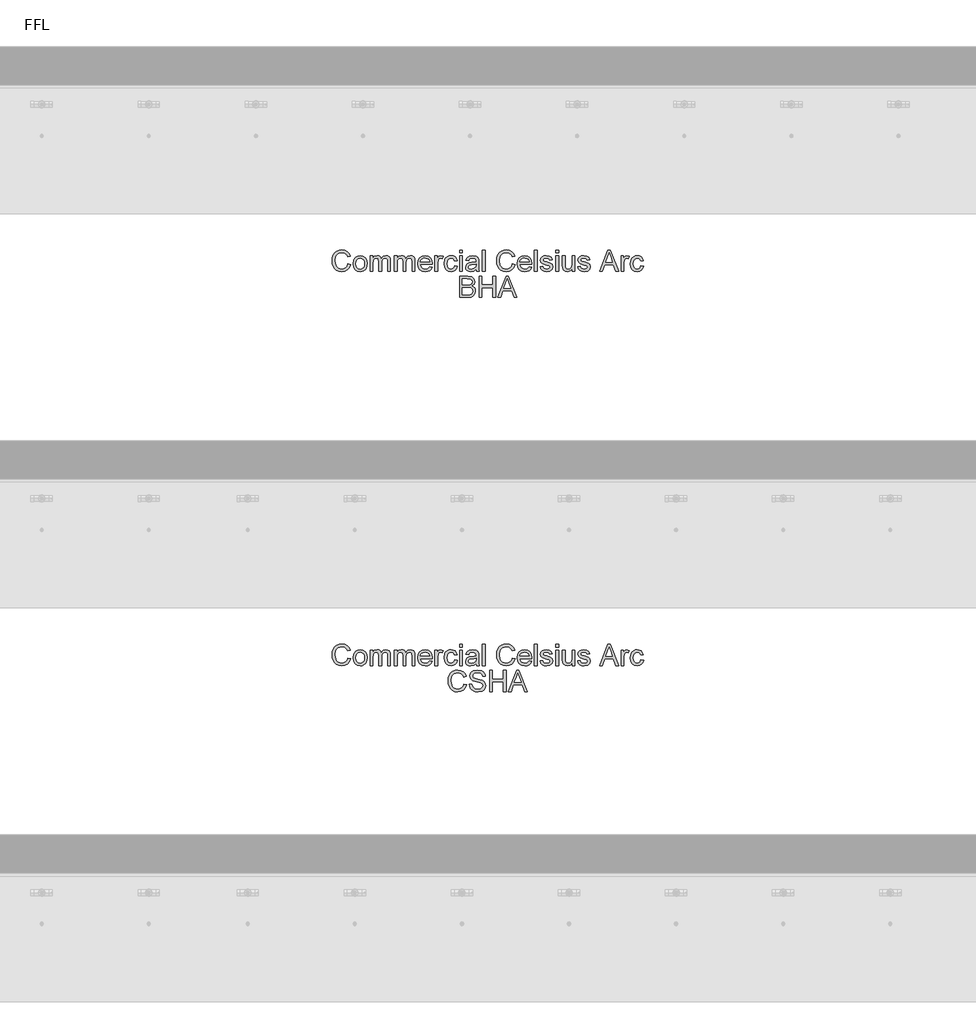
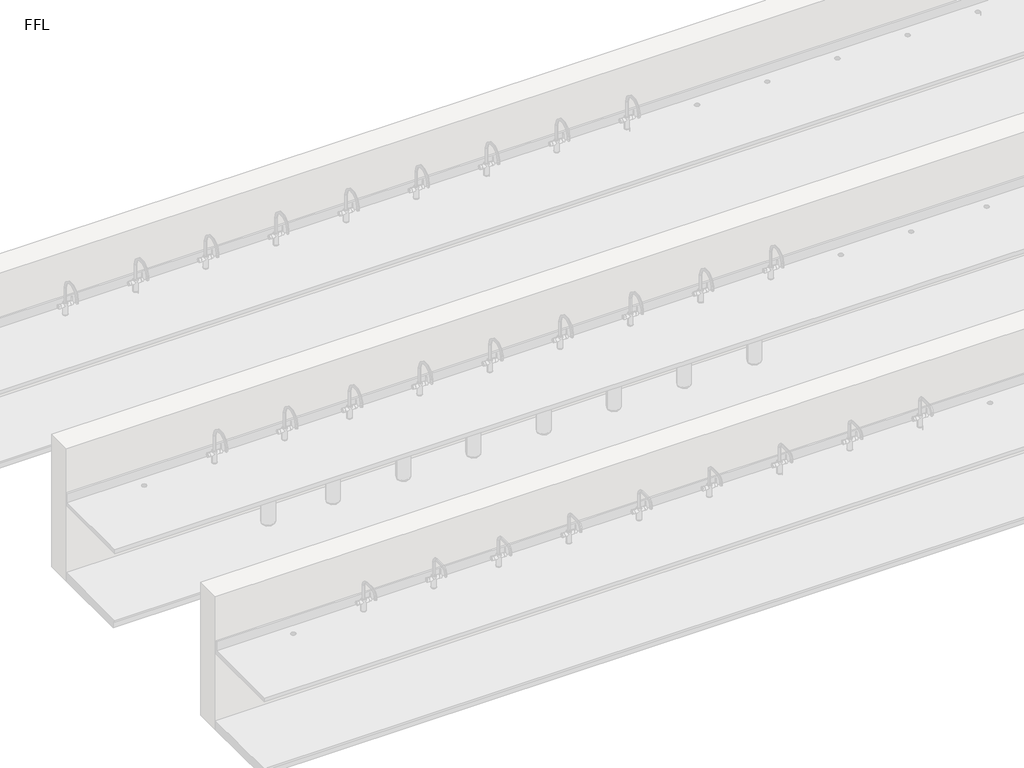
# One storey, part 7 of 10: 2 proxies.
"""IFC4 building model written with IfcOpenShell, lengths in millimetres."""

from ifc_helpers import new_model, si_unit, origin, origin_with_axes, place, context, project, spatial, polyline, outline, extrude, element, save

model = new_model("IFC4")

# Units and contexts
model_context = context("Model", 3, world=origin())
ifc_project = project(units=[si_unit("LENGTHUNIT", "METRE", prefix="MILLI")], contexts=[model_context])

# Site, building, storey
site = spatial("IfcSite", under=ifc_project)
building = spatial("IfcBuilding", under=site)
storey = spatial("IfcBuildingStorey", under=building, Name="FFL", Elevation=0.0)

# Proxies
placement = place(None, origin())
element("IfcBuildingElementProxy", 1, Name="150mm Arial", ObjectType="150mm Arial", at=placement, inside=storey, context=model_context, shape_type="SweptSolid", body=[
    extrude(outline(polyline([(-3320.889139, 3836.3018309), (-3302.4276006, 3831.5422155), (-3310.9462304, 3810.0292948), (-3324.3146198, 3794.3126482), (-3341.8747159, 3784.698766), (-3362.9684659, 3781.4941386), (-3384.382228, 3783.9190184), (-3401.3879371, 3791.1936578), (-3414.4227929, 3803.065653), (-3423.9239948, 3819.2826001), (-3429.724776, 3838.3481049), (-3431.6583698, 3858.7657732), (-3429.4723722, 3880.3012299), (-3422.9143794, 3898.8979847), (-3412.3269395, 3913.9655929), (-3398.0526006, 3924.9136097), (-3381.123514, 3931.5797756), (-3362.5718313, 3933.8018309), (-3342.3299443, 3930.9262299), (-3325.5946679, 3922.299427), (-3312.8888385, 3908.4532732), (-3304.7352929, 3889.9196193), (-3323.1968313, 3885.5205809), (-3329.5970717, 3898.9836217), (-3338.3410621, 3908.2188982), (-3349.5369756, 3913.5599439), (-3363.2929852, 3915.3402924), (-3379.1493554, 3913.3661338), (-3392.1751967, 3907.4436578), (-3402.0595116, 3898.1948597), (-3408.4913025, 3886.2417347), (-3413.1968313, 3858.8018309), (-3407.6259179, 3826.9989463), (-3400.5045236, 3815.1224439), (-3390.2821679, 3806.6804367), (-3378.0270597, 3801.6368669), (-3364.8074083, 3799.955677), (-3349.397252, 3802.2453405), (-3336.5562063, 3809.1143309), (-3326.8611943, 3820.4905328), (-3320.889139, 3836.3018309)])), origin_with_axes(), (0.0, 0.0, 1.0), 5.0),
    extrude(outline(polyline([(-3283.9660621, 3838.0326001), (-3279.9726727, 3864.1834415), (-3267.9925044, 3882.5638501), (-3253.1908217, 3891.5692588), (-3235.4684659, 3894.5710617), (-3216.0739347, 3890.9157131), (-3200.5826486, 3879.9496674), (-3190.427901, 3862.5383092), (-3187.0429852, 3839.5470232), (-3188.5393794, 3820.8961818), (-3193.0285621, 3806.6984655), (-3200.3798241, 3796.0659535), (-3210.4624563, 3788.1107251), (-3222.4381174, 3783.1482852), (-3235.4684659, 3781.4941386), (-3255.0973722, 3785.1359655), (-3270.5706294, 3796.0614463), (-3280.6172039, 3813.8378886), (-3283.9660621, 3838.0326001)]), holes=[polyline([(-3265.5045236, 3838.0686578), (-3263.3681054, 3821.3604246), (-3256.9588506, 3809.456879), (-3247.3134179, 3802.3309775), (-3235.4684659, 3799.955677), (-3223.6776006, 3802.3444992), (-3214.0501967, 3809.5109655), (-3207.6409419, 3821.5722636), (-3205.5045236, 3838.6455809), (-3207.6544635, 3854.8670352), (-3214.1042833, 3866.6083213), (-3223.7452087, 3873.7342227), (-3235.4684659, 3876.1095232), (-3247.3134179, 3873.7432371), (-3256.9588506, 3866.644379), (-3263.3681054, 3854.7678766), (-3265.5045236, 3838.0686578)])]), origin_with_axes(), (0.0, 0.0, 1.0), 5.0),
    extrude(outline(polyline([(-3166.2737544, 3783.8018309), (-3166.2737544, 3892.2633693), (-3147.8122159, 3892.2633693), (-3147.8122159, 3874.4148117), (-3135.1199083, 3889.0362059), (-3117.0550044, 3894.5710617), (-3106.7875765, 3893.1603044), (-3098.5574083, 3888.9280328), (-3088.389139, 3873.1167347), (-3073.9840909, 3889.2074799), (-3055.7929852, 3894.5710617), (-3041.9152809, 3892.3399919), (-3031.6523602, 3885.6467828), (-3025.3107135, 3874.3111458), (-3023.1968313, 3858.1527924), (-3023.1968313, 3783.8018309), (-3041.6583698, 3783.8018309), (-3041.6583698, 3850.2201001), (-3043.3711102, 3865.6347636), (-3049.5730333, 3873.2249078), (-3060.1199083, 3876.1095232), (-3070.1214107, 3874.2615665), (-3078.2749563, 3868.7176963), (-3083.6971318, 3859.0993068), (-3085.5045236, 3845.0277924), (-3085.5045236, 3783.8018309), (-3103.9660621, 3783.8018309), (-3103.9660621, 3852.2753886), (-3108.2388986, 3870.160004), (-3113.8774203, 3874.6221434), (-3122.2473121, 3876.1095232), (-3135.9131775, 3872.143177), (-3144.9997159, 3860.5326001), (-3147.8122159, 3838.5013501), (-3147.8122159, 3783.8018309), (-3166.2737544, 3783.8018309)])), origin_with_axes(), (0.0, 0.0, 1.0), 5.0),
    extrude(outline(polyline([(-2995.5045236, 3783.8018309), (-2995.5045236, 3892.2633693), (-2977.0429852, 3892.2633693), (-2977.0429852, 3874.4148117), (-2964.3506775, 3889.0362059), (-2946.2857736, 3894.5710617), (-2936.0183458, 3893.1603044), (-2927.7881775, 3888.9280328), (-2917.6199083, 3873.1167347), (-2903.2148602, 3889.2074799), (-2885.0237544, 3894.5710617), (-2871.1460501, 3892.3399919), (-2860.8831294, 3885.6467828), (-2854.5414828, 3874.3111458), (-2852.4276006, 3858.1527924), (-2852.4276006, 3783.8018309), (-2870.889139, 3783.8018309), (-2870.889139, 3850.2201001), (-2872.6018794, 3865.6347636), (-2878.8038025, 3873.2249078), (-2889.3506775, 3876.1095232), (-2899.3521799, 3874.2615665), (-2907.5057256, 3868.7176963), (-2912.927901, 3859.0993068), (-2914.7352929, 3845.0277924), (-2914.7352929, 3783.8018309), (-2933.1968313, 3783.8018309), (-2933.1968313, 3852.2753886), (-2937.4696679, 3870.160004), (-2943.1081895, 3874.6221434), (-2951.4780813, 3876.1095232), (-2965.1439467, 3872.143177), (-2974.2304852, 3860.5326001), (-2977.0429852, 3838.5013501), (-2977.0429852, 3783.8018309), (-2995.5045236, 3783.8018309)])), origin_with_axes(), (0.0, 0.0, 1.0), 5.0),
    extrude(outline(polyline([(-2748.7977929, 3816.1095232), (-2730.6968313, 3813.8018309), (-2737.2187664, 3800.1630088), (-2747.6259179, 3789.9676963), (-2761.6839107, 3783.612528), (-2779.1583698, 3781.4941386), (-2800.8200284, 3785.1494871), (-2817.4876967, 3796.1155328), (-2828.1157015, 3813.6801362), (-2831.6583698, 3837.1311578), (-2828.0796438, 3861.3709415), (-2817.3434659, 3879.4989463), (-2800.9011583, 3890.8030328), (-2780.2040429, 3894.5710617), (-2760.1514587, 3890.8120472), (-2744.1283217, 3879.535004), (-2733.6220116, 3861.4430568), (-2730.1199083, 3837.2393309), (-2730.2280813, 3832.2633693), (-2813.1968313, 3832.2633693), (-2810.0012184, 3818.4442588), (-2802.5778409, 3808.285004), (-2791.8641991, 3802.0380088), (-2778.7977929, 3799.955677), (-2760.6968313, 3803.8138501), (-2748.7977929, 3816.1095232)]), holes=[polyline([(-2813.1968313, 3850.7249078), (-2748.5814467, 3850.7249078), (-2751.0784419, 3860.4785136), (-2755.9732736, 3867.455677), (-2766.7364948, 3873.9460617), (-2780.2761583, 3876.1095232), (-2792.7205693, 3874.3832612), (-2803.0105333, 3869.2044751), (-2810.163478, 3861.1320592), (-2813.1968313, 3850.7249078)])]), origin_with_axes(), (0.0, 0.0, 1.0), 5.0),
    extrude(outline(polyline([(-2711.6583698, 3783.8018309), (-2711.6583698, 3892.2633693), (-2695.5045236, 3892.2633693), (-2695.5045236, 3876.2176963), (-2684.0381775, 3891.0013501), (-2672.4997159, 3894.5710617), (-2653.9660621, 3888.8739463), (-2660.1319275, 3872.3234655), (-2673.1126967, 3876.1095232), (-2683.5513986, 3872.4676963), (-2690.2040429, 3862.3715424), (-2693.1968313, 3840.8090424), (-2693.1968313, 3783.8018309), (-2711.6583698, 3783.8018309)])), origin_with_axes(), (0.0, 0.0, 1.0), 5.0),
    extrude(outline(polyline([(-2573.1968313, 3823.0326001), (-2554.7352929, 3820.7249078), (-2559.8825284, 3804.3051362), (-2569.5550044, 3791.8967828), (-2582.842264, 3784.0947996), (-2598.8338506, 3781.4941386), (-2618.4717712, 3785.1224439), (-2633.8278409, 3796.0073597), (-2643.7391991, 3813.6711217), (-2647.0429852, 3837.6359655), (-2641.3999563, 3868.3030328), (-2634.2785621, 3879.8009294), (-2624.2004371, 3888.0085617), (-2612.1436462, 3892.9304367), (-2599.0862544, 3894.5710617), (-2583.4867953, 3892.3174559), (-2571.0153409, 3885.5566386), (-2562.068526, 3874.6491867), (-2557.0429852, 3859.955677), (-2575.5045236, 3857.6479847), (-2584.0682256, 3871.4761097), (-2598.9420236, 3876.1095232), (-2610.8726126, 3873.8288742), (-2620.342264, 3866.986927), (-2626.521651, 3855.2140905), (-2628.5814467, 3838.1407732), (-2626.5667232, 3820.8375881), (-2620.5225525, 3809.0241867), (-2611.2241751, 3802.2228044), (-2599.4468313, 3799.955677), (-2589.8870357, 3801.3709415), (-2582.0489948, 3805.6167347), (-2576.3473722, 3812.8012299), (-2573.1968313, 3823.0326001)])), origin_with_axes(), (0.0, 0.0, 1.0), 5.0),
    extrude(outline(polyline([(-2538.5814467, 3913.0326001), (-2538.5814467, 3931.4941386), (-2520.1199083, 3931.4941386), (-2520.1199083, 3913.0326001), (-2538.5814467, 3913.0326001)])), origin_with_axes(), (0.0, 0.0, 1.0), 5.0),
    extrude(outline(polyline([(-2538.5814467, 3783.8018309), (-2538.5814467, 3892.2633693), (-2520.1199083, 3892.2633693), (-2520.1199083, 3783.8018309), (-2538.5814467, 3783.8018309)])), origin_with_axes(), (0.0, 0.0, 1.0), 5.0),
    extrude(outline(polyline([(-2423.1968313, 3797.6479847), (-2441.0994756, 3785.1359655), (-2460.8771198, 3781.4941386), (-2476.3053049, 3783.6846434), (-2487.686014, 3790.2561578), (-2494.7037424, 3800.2351242), (-2497.0429852, 3812.6479847), (-2493.5093313, 3827.2513501), (-2484.2244756, 3837.8523117), (-2471.2977929, 3843.910004), (-2455.3242352, 3846.6864463), (-2423.3050044, 3853.0326001), (-2423.1968313, 3857.143177), (-2424.467865, 3865.3823597), (-2428.2809659, 3870.7729847), (-2436.8086102, 3874.7753886), (-2448.6896198, 3876.1095232), (-2467.3675044, 3872.5578405), (-2476.2737544, 3859.955677), (-2494.7352929, 3862.2633693), (-2486.748514, 3880.2922155), (-2470.6667833, 3890.8571193), (-2446.3098121, 3894.5710617), (-2423.936014, 3891.2898117), (-2411.2977929, 3883.050629), (-2405.6367352, 3870.5205809), (-2404.7352929, 3854.3667347), (-2404.7352929, 3831.3979847), (-2403.7977929, 3799.3246674), (-2400.1199083, 3783.8018309), (-2418.5814467, 3783.8018309), (-2423.1968313, 3797.6479847)]), holes=[polyline([(-2423.1968313, 3834.5710617), (-2452.9804852, 3828.910004), (-2468.8638986, 3825.9172155), (-2476.0574083, 3821.049427), (-2478.5814467, 3813.9460617), (-2473.0826486, 3803.9580809), (-2456.9468313, 3799.955677), (-2438.2689467, 3804.3727443), (-2426.2256775, 3815.0638501), (-2423.3050044, 3829.3426963), (-2423.1968313, 3834.5710617)])]), origin_with_axes(), (0.0, 0.0, 1.0), 5.0),
    extrude(outline(polyline([(-2379.3506775, 3783.8018309), (-2379.3506775, 3931.4941386), (-2360.889139, 3931.4941386), (-2360.889139, 3783.8018309), (-2379.3506775, 3783.8018309)])), origin_with_axes(), (0.0, 0.0, 1.0), 5.0),
    extrude(outline(polyline([(-2169.3506775, 3836.3018309), (-2150.889139, 3831.5422155), (-2159.4077688, 3810.0292948), (-2172.7761583, 3794.3126482), (-2190.3362544, 3784.698766), (-2211.4300044, 3781.4941386), (-2232.8437664, 3783.9190184), (-2249.8494756, 3791.1936578), (-2262.8843313, 3803.065653), (-2272.3855333, 3819.2826001), (-2278.1863145, 3838.3481049), (-2280.1199083, 3858.7657732), (-2277.9339107, 3880.3012299), (-2271.3759179, 3898.8979847), (-2260.788478, 3913.9655929), (-2246.514139, 3924.9136097), (-2229.5850525, 3931.5797756), (-2211.0333698, 3933.8018309), (-2190.7914828, 3930.9262299), (-2174.0562063, 3922.299427), (-2161.350377, 3908.4532732), (-2153.1968313, 3889.9196193), (-2171.6583698, 3885.5205809), (-2178.0586102, 3898.9836217), (-2186.8026006, 3908.2188982), (-2197.998514, 3913.5599439), (-2211.7545236, 3915.3402924), (-2227.6108938, 3913.3661338), (-2240.6367352, 3907.4436578), (-2250.5210501, 3898.1948597), (-2256.9528409, 3886.2417347), (-2261.6583698, 3858.8018309), (-2256.0874563, 3826.9989463), (-2248.9660621, 3815.1224439), (-2238.7437063, 3806.6804367), (-2226.4885982, 3801.6368669), (-2213.2689467, 3799.955677), (-2197.8587905, 3802.2453405), (-2185.0177448, 3809.1143309), (-2175.3227328, 3820.4905328), (-2169.3506775, 3836.3018309)])), origin_with_axes(), (0.0, 0.0, 1.0), 5.0),
    extrude(outline(polyline([(-2051.8747159, 3816.1095232), (-2033.7737544, 3813.8018309), (-2040.2956895, 3800.1630088), (-2050.7028409, 3789.9676963), (-2064.7608337, 3783.612528), (-2082.2352929, 3781.4941386), (-2103.8969515, 3785.1494871), (-2120.5646198, 3796.1155328), (-2131.1926246, 3813.6801362), (-2134.7352929, 3837.1311578), (-2131.1565669, 3861.3709415), (-2120.420389, 3879.4989463), (-2103.9780813, 3890.8030328), (-2083.2809659, 3894.5710617), (-2063.2283818, 3890.8120472), (-2047.2052448, 3879.535004), (-2036.6989347, 3861.4430568), (-2033.1968313, 3837.2393309), (-2033.3050044, 3832.2633693), (-2116.2737544, 3832.2633693), (-2113.0781414, 3818.4442588), (-2105.654764, 3808.285004), (-2094.9411222, 3802.0380088), (-2081.8747159, 3799.955677), (-2063.7737544, 3803.8138501), (-2051.8747159, 3816.1095232)]), holes=[polyline([(-2116.2737544, 3850.7249078), (-2051.6583698, 3850.7249078), (-2054.155365, 3860.4785136), (-2059.0501967, 3867.455677), (-2069.8134179, 3873.9460617), (-2083.3530813, 3876.1095232), (-2095.7974924, 3874.3832612), (-2106.0874563, 3869.2044751), (-2113.240401, 3861.1320592), (-2116.2737544, 3850.7249078)])]), origin_with_axes(), (0.0, 0.0, 1.0), 5.0),
    extrude(outline(polyline([(-2014.7352929, 3783.8018309), (-2014.7352929, 3931.4941386), (-1996.2737544, 3931.4941386), (-1996.2737544, 3783.8018309), (-2014.7352929, 3783.8018309)])), origin_with_axes(), (0.0, 0.0, 1.0), 5.0),
    extrude(outline(polyline([(-1975.5045236, 3816.1095232), (-1957.0429852, 3818.4172155), (-1954.1313265, 3810.5205809), (-1948.4973121, 3804.7152924), (-1928.9179852, 3799.955677), (-1910.0958698, 3804.3186578), (-1903.9660621, 3814.5590424), (-1910.1319275, 3822.8523117), (-1929.1343313, 3828.1167347), (-1956.9348121, 3837.1491867), (-1969.0682256, 3847.6960617), (-1973.1968313, 3862.5878886), (-1969.8795236, 3876.3438982), (-1960.8290429, 3886.8547155), (-1949.092264, 3892.3174559), (-1933.2088506, 3894.5710617), (-1910.7449083, 3890.9472636), (-1896.4660621, 3881.1395713), (-1890.1199083, 3864.5710617), (-1908.5814467, 3862.2633693), (-1915.5225525, 3872.4496674), (-1931.7665429, 3876.1095232), (-1949.4348121, 3872.611927), (-1954.7352929, 3864.4628886), (-1952.5357736, 3859.0902924), (-1945.6487544, 3855.0157732), (-1929.7473121, 3851.0854847), (-1902.6499563, 3842.3955809), (-1890.0658217, 3832.5518309), (-1885.5045236, 3816.5061578), (-1890.8590909, 3798.8378886), (-1906.3098121, 3786.019379), (-1929.170389, 3781.4941386), (-1947.7851727, 3783.675629), (-1961.3699083, 3790.2201001), (-1970.4384179, 3801.0554367), (-1975.5045236, 3816.1095232)])), origin_with_axes(), (0.0, 0.0, 1.0), 5.0),
    extrude(outline(polyline([(-1864.7352929, 3783.8018309), (-1864.7352929, 3892.2633693), (-1846.2737544, 3892.2633693), (-1846.2737544, 3783.8018309), (-1864.7352929, 3783.8018309)])), origin_with_axes(), (0.0, 0.0, 1.0), 5.0),
    extrude(outline(polyline([(-1864.7352929, 3913.0326001), (-1864.7352929, 3931.4941386), (-1846.2737544, 3931.4941386), (-1846.2737544, 3913.0326001), (-1864.7352929, 3913.0326001)])), origin_with_axes(), (0.0, 0.0, 1.0), 5.0),
    extrude(outline(polyline([(-1749.3506775, 3783.8018309), (-1749.3506775, 3802.4436578), (-1763.8098121, 3786.7315184), (-1782.6679852, 3781.4941386), (-1800.029764, 3785.1720232), (-1812.0009179, 3794.4027924), (-1817.4997159, 3807.9965424), (-1818.5814467, 3825.160004), (-1818.5814467, 3892.2633693), (-1800.1199083, 3892.2633693), (-1800.1199083, 3833.8499078), (-1799.0021198, 3815.0277924), (-1791.7004371, 3803.9761097), (-1777.9444275, 3799.955677), (-1762.529764, 3804.066254), (-1752.3434659, 3815.2621674), (-1749.3506775, 3835.8330809), (-1749.3506775, 3892.2633693), (-1730.889139, 3892.2633693), (-1730.889139, 3783.8018309), (-1749.3506775, 3783.8018309)])), origin_with_axes(), (0.0, 0.0, 1.0), 5.0),
    extrude(outline(polyline([(-1712.4276006, 3816.1095232), (-1693.9660621, 3818.4172155), (-1691.0544034, 3810.5205809), (-1685.420389, 3804.7152924), (-1665.8410621, 3799.955677), (-1647.0189467, 3804.3186578), (-1640.889139, 3814.5590424), (-1647.0550044, 3822.8523117), (-1666.0574083, 3828.1167347), (-1693.857889, 3837.1491867), (-1705.9913025, 3847.6960617), (-1710.1199083, 3862.5878886), (-1706.8026006, 3876.3438982), (-1697.7521198, 3886.8547155), (-1686.0153409, 3892.3174559), (-1670.1319275, 3894.5710617), (-1647.6679852, 3890.9472636), (-1633.389139, 3881.1395713), (-1627.0429852, 3864.5710617), (-1645.5045236, 3862.2633693), (-1652.4456294, 3872.4496674), (-1668.6896198, 3876.1095232), (-1686.357889, 3872.611927), (-1691.6583698, 3864.4628886), (-1689.4588506, 3859.0902924), (-1682.5718313, 3855.0157732), (-1666.670389, 3851.0854847), (-1639.5730333, 3842.3955809), (-1626.9888986, 3832.5518309), (-1622.4276006, 3816.5061578), (-1627.7821679, 3798.8378886), (-1643.232889, 3786.019379), (-1666.0934659, 3781.4941386), (-1684.7082496, 3783.675629), (-1698.2929852, 3790.2201001), (-1707.3614948, 3801.0554367), (-1712.4276006, 3816.1095232)])), origin_with_axes(), (0.0, 0.0, 1.0), 5.0),
    extrude(outline(polyline([(-1558.857889, 3783.8018309), (-1499.9035621, 3931.4941386), (-1484.1824083, 3931.4941386), (-1425.2280813, 3783.8018309), (-1444.7352929, 3783.8018309), (-1461.6463506, 3829.955677), (-1522.4756775, 3829.955677), (-1539.3506775, 3783.8018309), (-1558.857889, 3783.8018309)]), holes=[polyline([(-1515.6968313, 3848.4172155), (-1468.389139, 3848.4172155), (-1481.6944275, 3884.7273117), (-1492.0429852, 3913.0326001), (-1501.2376967, 3887.9003886), (-1515.6968313, 3848.4172155)])]), origin_with_axes(), (0.0, 0.0, 1.0), 5.0),
    extrude(outline(polyline([(-1407.8122159, 3783.8018309), (-1407.8122159, 3892.2633693), (-1391.6583698, 3892.2633693), (-1391.6583698, 3876.2176963), (-1380.1920236, 3891.0013501), (-1368.6535621, 3894.5710617), (-1350.1199083, 3888.8739463), (-1356.2857736, 3872.3234655), (-1369.2665429, 3876.1095232), (-1379.7052448, 3872.4676963), (-1386.357889, 3862.3715424), (-1389.3506775, 3840.8090424), (-1389.3506775, 3783.8018309), (-1407.8122159, 3783.8018309)])), origin_with_axes(), (0.0, 0.0, 1.0), 5.0),
    extrude(outline(polyline([(-1269.3506775, 3823.0326001), (-1250.889139, 3820.7249078), (-1256.0363746, 3804.3051362), (-1265.7088506, 3791.8967828), (-1278.9961102, 3784.0947996), (-1294.9876967, 3781.4941386), (-1314.6256174, 3785.1224439), (-1329.9816871, 3796.0073597), (-1339.8930453, 3813.6711217), (-1343.1968313, 3837.6359655), (-1337.5538025, 3868.3030328), (-1330.4324083, 3879.8009294), (-1320.3542833, 3888.0085617), (-1308.2974924, 3892.9304367), (-1295.2401006, 3894.5710617), (-1279.6406414, 3892.3174559), (-1267.1691871, 3885.5566386), (-1258.2223722, 3874.6491867), (-1253.1968313, 3859.955677), (-1271.6583698, 3857.6479847), (-1280.2220717, 3871.4761097), (-1295.0958698, 3876.1095232), (-1307.0264587, 3873.8288742), (-1316.4961102, 3866.986927), (-1322.6754972, 3855.2140905), (-1324.7352929, 3838.1407732), (-1322.7205693, 3820.8375881), (-1316.6763986, 3809.0241867), (-1307.3780212, 3802.2228044), (-1295.6006775, 3799.955677), (-1286.0408818, 3801.3709415), (-1278.2028409, 3805.6167347), (-1272.5012184, 3812.8012299), (-1269.3506775, 3823.0326001)])), origin_with_axes(), (0.0, 0.0, 1.0), 5.0),
    extrude(outline(polyline([(-2538.5814467, 3601.4941386), (-2538.5814467, 3749.1864463), (-2482.2232736, 3749.1864463), (-2454.6211102, 3744.8414943), (-2445.3452688, 3739.3291746), (-2438.3230333, 3731.4821193), (-2432.4276006, 3712.5878886), (-2437.3855333, 3695.3342828), (-2452.3675044, 3682.2633693), (-2441.9062664, 3676.800629), (-2434.1763986, 3668.4893309), (-2429.4032616, 3657.8793549), (-2427.8122159, 3645.5205809), (-2432.1571679, 3625.6708213), (-2442.920389, 3611.5362059), (-2458.9840909, 3604.0362059), (-2482.6559659, 3601.4941386), (-2538.5814467, 3601.4941386)]), holes=[polyline([(-2520.1199083, 3689.1864463), (-2486.4059659, 3689.1864463), (-2466.7184659, 3690.7729847), (-2454.873514, 3697.6059174), (-2450.889139, 3709.6311578), (-2454.6030813, 3721.674427), (-2465.2401006, 3728.7958213), (-2488.9660621, 3730.7249078), (-2520.1199083, 3730.7249078), (-2520.1199083, 3689.1864463)]), polyline([(-2520.1199083, 3619.955677), (-2482.2593313, 3619.955677), (-2468.5574083, 3620.6768309), (-2456.9648602, 3624.6972636), (-2449.2845717, 3632.9003886), (-2446.2737544, 3645.3402924), (-2449.8074083, 3659.691254), (-2461.2557256, 3668.2549559), (-2484.0622159, 3670.7249078), (-2520.1199083, 3670.7249078), (-2520.1199083, 3619.955677)])]), origin_with_axes(), (0.0, 0.0, 1.0), 5.0),
    extrude(outline(polyline([(-2402.4276006, 3601.4941386), (-2402.4276006, 3749.1864463), (-2383.9660621, 3749.1864463), (-2383.9660621, 3689.1864463), (-2305.5045236, 3689.1864463), (-2305.5045236, 3749.1864463), (-2287.0429852, 3749.1864463), (-2287.0429852, 3601.4941386), (-2305.5045236, 3601.4941386), (-2305.5045236, 3670.7249078), (-2383.9660621, 3670.7249078), (-2383.9660621, 3601.4941386), (-2402.4276006, 3601.4941386)])), origin_with_axes(), (0.0, 0.0, 1.0), 5.0),
    extrude(outline(polyline([(-2271.9348121, 3601.4941386), (-2212.9804852, 3749.1864463), (-2197.2593313, 3749.1864463), (-2138.3050044, 3601.4941386), (-2157.8122159, 3601.4941386), (-2174.7232736, 3647.6479847), (-2235.5526006, 3647.6479847), (-2252.4276006, 3601.4941386), (-2271.9348121, 3601.4941386)]), holes=[polyline([(-2228.7737544, 3666.1095232), (-2181.4660621, 3666.1095232), (-2194.7713506, 3702.4196193), (-2205.1199083, 3730.7249078), (-2214.3146198, 3705.5926963), (-2228.7737544, 3666.1095232)])]), origin_with_axes(), (0.0, 0.0, 1.0), 5.0),
])
element("IfcBuildingElementProxy", 2, Name="150mm Arial", ObjectType="150mm Arial", at=placement, inside=storey, context=model_context, shape_type="SweptSolid", body=[
    extrude(outline(polyline([(-3320.889139, 1076.3018309), (-3302.4276006, 1071.5422155), (-3310.9462304, 1050.0292948), (-3324.3146198, 1034.3126482), (-3341.8747159, 1024.698766), (-3362.9684659, 1021.4941386), (-3384.382228, 1023.9190184), (-3401.3879371, 1031.1936578), (-3414.4227929, 1043.065653), (-3423.9239948, 1059.2826001), (-3429.724776, 1078.3481049), (-3431.6583698, 1098.7657732), (-3429.4723722, 1120.3012299), (-3422.9143794, 1138.8979847), (-3412.3269395, 1153.9655929), (-3398.0526006, 1164.9136097), (-3381.123514, 1171.5797756), (-3362.5718313, 1173.8018309), (-3342.3299443, 1170.9262299), (-3325.5946679, 1162.299427), (-3312.8888385, 1148.4532732), (-3304.7352929, 1129.9196193), (-3323.1968313, 1125.5205809), (-3329.5970717, 1138.9836217), (-3338.3410621, 1148.2188982), (-3349.5369756, 1153.5599439), (-3363.2929852, 1155.3402924), (-3379.1493554, 1153.3661338), (-3392.1751967, 1147.4436578), (-3402.0595116, 1138.1948597), (-3408.4913025, 1126.2417347), (-3413.1968313, 1098.8018309), (-3407.6259179, 1066.9989463), (-3400.5045236, 1055.1224439), (-3390.2821679, 1046.6804367), (-3378.0270597, 1041.6368669), (-3364.8074083, 1039.955677), (-3349.397252, 1042.2453405), (-3336.5562063, 1049.1143309), (-3326.8611943, 1060.4905328), (-3320.889139, 1076.3018309)])), origin_with_axes(), (0.0, 0.0, 1.0), 5.0),
    extrude(outline(polyline([(-3283.9660621, 1078.0326001), (-3279.9726727, 1104.1834415), (-3267.9925044, 1122.5638501), (-3253.1908217, 1131.5692588), (-3235.4684659, 1134.5710617), (-3216.0739347, 1130.9157131), (-3200.5826486, 1119.9496674), (-3190.427901, 1102.5383092), (-3187.0429852, 1079.5470232), (-3188.5393794, 1060.8961818), (-3193.0285621, 1046.6984655), (-3200.3798241, 1036.0659535), (-3210.4624563, 1028.1107251), (-3222.4381174, 1023.1482852), (-3235.4684659, 1021.4941386), (-3255.0973722, 1025.1359655), (-3270.5706294, 1036.0614463), (-3280.6172039, 1053.8378886), (-3283.9660621, 1078.0326001)]), holes=[polyline([(-3265.5045236, 1078.0686578), (-3263.3681054, 1061.3604246), (-3256.9588506, 1049.456879), (-3247.3134179, 1042.3309775), (-3235.4684659, 1039.955677), (-3223.6776006, 1042.3444992), (-3214.0501967, 1049.5109655), (-3207.6409419, 1061.5722636), (-3205.5045236, 1078.6455809), (-3207.6544635, 1094.8670352), (-3214.1042833, 1106.6083213), (-3223.7452087, 1113.7342227), (-3235.4684659, 1116.1095232), (-3247.3134179, 1113.7432371), (-3256.9588506, 1106.644379), (-3263.3681054, 1094.7678766), (-3265.5045236, 1078.0686578)])]), origin_with_axes(), (0.0, 0.0, 1.0), 5.0),
    extrude(outline(polyline([(-3166.2737544, 1023.8018309), (-3166.2737544, 1132.2633693), (-3147.8122159, 1132.2633693), (-3147.8122159, 1114.4148117), (-3135.1199083, 1129.0362059), (-3117.0550044, 1134.5710617), (-3106.7875765, 1133.1603044), (-3098.5574083, 1128.9280328), (-3088.389139, 1113.1167347), (-3073.9840909, 1129.2074799), (-3055.7929852, 1134.5710617), (-3041.9152809, 1132.3399919), (-3031.6523602, 1125.6467828), (-3025.3107135, 1114.3111458), (-3023.1968313, 1098.1527924), (-3023.1968313, 1023.8018309), (-3041.6583698, 1023.8018309), (-3041.6583698, 1090.2201001), (-3043.3711102, 1105.6347636), (-3049.5730333, 1113.2249078), (-3060.1199083, 1116.1095232), (-3070.1214107, 1114.2615665), (-3078.2749563, 1108.7176963), (-3083.6971318, 1099.0993068), (-3085.5045236, 1085.0277924), (-3085.5045236, 1023.8018309), (-3103.9660621, 1023.8018309), (-3103.9660621, 1092.2753886), (-3108.2388986, 1110.160004), (-3113.8774203, 1114.6221434), (-3122.2473121, 1116.1095232), (-3135.9131775, 1112.143177), (-3144.9997159, 1100.5326001), (-3147.8122159, 1078.5013501), (-3147.8122159, 1023.8018309), (-3166.2737544, 1023.8018309)])), origin_with_axes(), (0.0, 0.0, 1.0), 5.0),
    extrude(outline(polyline([(-2995.5045236, 1023.8018309), (-2995.5045236, 1132.2633693), (-2977.0429852, 1132.2633693), (-2977.0429852, 1114.4148117), (-2964.3506775, 1129.0362059), (-2946.2857736, 1134.5710617), (-2936.0183458, 1133.1603044), (-2927.7881775, 1128.9280328), (-2917.6199083, 1113.1167347), (-2903.2148602, 1129.2074799), (-2885.0237544, 1134.5710617), (-2871.1460501, 1132.3399919), (-2860.8831294, 1125.6467828), (-2854.5414828, 1114.3111458), (-2852.4276006, 1098.1527924), (-2852.4276006, 1023.8018309), (-2870.889139, 1023.8018309), (-2870.889139, 1090.2201001), (-2872.6018794, 1105.6347636), (-2878.8038025, 1113.2249078), (-2889.3506775, 1116.1095232), (-2899.3521799, 1114.2615665), (-2907.5057256, 1108.7176963), (-2912.927901, 1099.0993068), (-2914.7352929, 1085.0277924), (-2914.7352929, 1023.8018309), (-2933.1968313, 1023.8018309), (-2933.1968313, 1092.2753886), (-2937.4696679, 1110.160004), (-2943.1081895, 1114.6221434), (-2951.4780813, 1116.1095232), (-2965.1439467, 1112.143177), (-2974.2304852, 1100.5326001), (-2977.0429852, 1078.5013501), (-2977.0429852, 1023.8018309), (-2995.5045236, 1023.8018309)])), origin_with_axes(), (0.0, 0.0, 1.0), 5.0),
    extrude(outline(polyline([(-2748.7977929, 1056.1095232), (-2730.6968313, 1053.8018309), (-2737.2187664, 1040.1630088), (-2747.6259179, 1029.9676963), (-2761.6839107, 1023.612528), (-2779.1583698, 1021.4941386), (-2800.8200284, 1025.1494871), (-2817.4876967, 1036.1155328), (-2828.1157015, 1053.6801362), (-2831.6583698, 1077.1311578), (-2828.0796438, 1101.3709415), (-2817.3434659, 1119.4989463), (-2800.9011583, 1130.8030328), (-2780.2040429, 1134.5710617), (-2760.1514587, 1130.8120472), (-2744.1283217, 1119.535004), (-2733.6220116, 1101.4430568), (-2730.1199083, 1077.2393309), (-2730.2280813, 1072.2633693), (-2813.1968313, 1072.2633693), (-2810.0012184, 1058.4442588), (-2802.5778409, 1048.285004), (-2791.8641991, 1042.0380088), (-2778.7977929, 1039.955677), (-2760.6968313, 1043.8138501), (-2748.7977929, 1056.1095232)]), holes=[polyline([(-2813.1968313, 1090.7249078), (-2748.5814467, 1090.7249078), (-2751.0784419, 1100.4785136), (-2755.9732736, 1107.455677), (-2766.7364948, 1113.9460617), (-2780.2761583, 1116.1095232), (-2792.7205693, 1114.3832612), (-2803.0105333, 1109.2044751), (-2810.163478, 1101.1320592), (-2813.1968313, 1090.7249078)])]), origin_with_axes(), (0.0, 0.0, 1.0), 5.0),
    extrude(outline(polyline([(-2711.6583698, 1023.8018309), (-2711.6583698, 1132.2633693), (-2695.5045236, 1132.2633693), (-2695.5045236, 1116.2176963), (-2684.0381775, 1131.0013501), (-2672.4997159, 1134.5710617), (-2653.9660621, 1128.8739463), (-2660.1319275, 1112.3234655), (-2673.1126967, 1116.1095232), (-2683.5513986, 1112.4676963), (-2690.2040429, 1102.3715424), (-2693.1968313, 1080.8090424), (-2693.1968313, 1023.8018309), (-2711.6583698, 1023.8018309)])), origin_with_axes(), (0.0, 0.0, 1.0), 5.0),
    extrude(outline(polyline([(-2573.1968313, 1063.0326001), (-2554.7352929, 1060.7249078), (-2559.8825284, 1044.3051362), (-2569.5550044, 1031.8967828), (-2582.842264, 1024.0947996), (-2598.8338506, 1021.4941386), (-2618.4717712, 1025.1224439), (-2633.8278409, 1036.0073597), (-2643.7391991, 1053.6711217), (-2647.0429852, 1077.6359655), (-2641.3999563, 1108.3030328), (-2634.2785621, 1119.8009294), (-2624.2004371, 1128.0085617), (-2612.1436462, 1132.9304367), (-2599.0862544, 1134.5710617), (-2583.4867953, 1132.3174559), (-2571.0153409, 1125.5566386), (-2562.068526, 1114.6491867), (-2557.0429852, 1099.955677), (-2575.5045236, 1097.6479847), (-2584.0682256, 1111.4761097), (-2598.9420236, 1116.1095232), (-2610.8726126, 1113.8288742), (-2620.342264, 1106.986927), (-2626.521651, 1095.2140905), (-2628.5814467, 1078.1407732), (-2626.5667232, 1060.8375881), (-2620.5225525, 1049.0241867), (-2611.2241751, 1042.2228044), (-2599.4468313, 1039.955677), (-2589.8870357, 1041.3709415), (-2582.0489948, 1045.6167347), (-2576.3473722, 1052.8012299), (-2573.1968313, 1063.0326001)])), origin_with_axes(), (0.0, 0.0, 1.0), 5.0),
    extrude(outline(polyline([(-2538.5814467, 1153.0326001), (-2538.5814467, 1171.4941386), (-2520.1199083, 1171.4941386), (-2520.1199083, 1153.0326001), (-2538.5814467, 1153.0326001)])), origin_with_axes(), (0.0, 0.0, 1.0), 5.0),
    extrude(outline(polyline([(-2538.5814467, 1023.8018309), (-2538.5814467, 1132.2633693), (-2520.1199083, 1132.2633693), (-2520.1199083, 1023.8018309), (-2538.5814467, 1023.8018309)])), origin_with_axes(), (0.0, 0.0, 1.0), 5.0),
    extrude(outline(polyline([(-2423.1968313, 1037.6479847), (-2441.0994756, 1025.1359655), (-2460.8771198, 1021.4941386), (-2476.3053049, 1023.6846434), (-2487.686014, 1030.2561578), (-2494.7037424, 1040.2351242), (-2497.0429852, 1052.6479847), (-2493.5093313, 1067.2513501), (-2484.2244756, 1077.8523117), (-2471.2977929, 1083.910004), (-2455.3242352, 1086.6864463), (-2423.3050044, 1093.0326001), (-2423.1968313, 1097.143177), (-2424.467865, 1105.3823597), (-2428.2809659, 1110.7729847), (-2436.8086102, 1114.7753886), (-2448.6896198, 1116.1095232), (-2467.3675044, 1112.5578405), (-2476.2737544, 1099.955677), (-2494.7352929, 1102.2633693), (-2486.748514, 1120.2922155), (-2470.6667833, 1130.8571193), (-2446.3098121, 1134.5710617), (-2423.936014, 1131.2898117), (-2411.2977929, 1123.050629), (-2405.6367352, 1110.5205809), (-2404.7352929, 1094.3667347), (-2404.7352929, 1071.3979847), (-2403.7977929, 1039.3246674), (-2400.1199083, 1023.8018309), (-2418.5814467, 1023.8018309), (-2423.1968313, 1037.6479847)]), holes=[polyline([(-2423.1968313, 1074.5710617), (-2452.9804852, 1068.910004), (-2468.8638986, 1065.9172155), (-2476.0574083, 1061.049427), (-2478.5814467, 1053.9460617), (-2473.0826486, 1043.9580809), (-2456.9468313, 1039.955677), (-2438.2689467, 1044.3727443), (-2426.2256775, 1055.0638501), (-2423.3050044, 1069.3426963), (-2423.1968313, 1074.5710617)])]), origin_with_axes(), (0.0, 0.0, 1.0), 5.0),
    extrude(outline(polyline([(-2379.3506775, 1023.8018309), (-2379.3506775, 1171.4941386), (-2360.889139, 1171.4941386), (-2360.889139, 1023.8018309), (-2379.3506775, 1023.8018309)])), origin_with_axes(), (0.0, 0.0, 1.0), 5.0),
    extrude(outline(polyline([(-2169.3506775, 1076.3018309), (-2150.889139, 1071.5422155), (-2159.4077688, 1050.0292948), (-2172.7761583, 1034.3126482), (-2190.3362544, 1024.698766), (-2211.4300044, 1021.4941386), (-2232.8437664, 1023.9190184), (-2249.8494756, 1031.1936578), (-2262.8843313, 1043.065653), (-2272.3855333, 1059.2826001), (-2278.1863145, 1078.3481049), (-2280.1199083, 1098.7657732), (-2277.9339107, 1120.3012299), (-2271.3759179, 1138.8979847), (-2260.788478, 1153.9655929), (-2246.514139, 1164.9136097), (-2229.5850525, 1171.5797756), (-2211.0333698, 1173.8018309), (-2190.7914828, 1170.9262299), (-2174.0562063, 1162.299427), (-2161.350377, 1148.4532732), (-2153.1968313, 1129.9196193), (-2171.6583698, 1125.5205809), (-2178.0586102, 1138.9836217), (-2186.8026006, 1148.2188982), (-2197.998514, 1153.5599439), (-2211.7545236, 1155.3402924), (-2227.6108938, 1153.3661338), (-2240.6367352, 1147.4436578), (-2250.5210501, 1138.1948597), (-2256.9528409, 1126.2417347), (-2261.6583698, 1098.8018309), (-2256.0874563, 1066.9989463), (-2248.9660621, 1055.1224439), (-2238.7437063, 1046.6804367), (-2226.4885982, 1041.6368669), (-2213.2689467, 1039.955677), (-2197.8587905, 1042.2453405), (-2185.0177448, 1049.1143309), (-2175.3227328, 1060.4905328), (-2169.3506775, 1076.3018309)])), origin_with_axes(), (0.0, 0.0, 1.0), 5.0),
    extrude(outline(polyline([(-2051.8747159, 1056.1095232), (-2033.7737544, 1053.8018309), (-2040.2956895, 1040.1630088), (-2050.7028409, 1029.9676963), (-2064.7608337, 1023.612528), (-2082.2352929, 1021.4941386), (-2103.8969515, 1025.1494871), (-2120.5646198, 1036.1155328), (-2131.1926246, 1053.6801362), (-2134.7352929, 1077.1311578), (-2131.1565669, 1101.3709415), (-2120.420389, 1119.4989463), (-2103.9780813, 1130.8030328), (-2083.2809659, 1134.5710617), (-2063.2283818, 1130.8120472), (-2047.2052448, 1119.535004), (-2036.6989347, 1101.4430568), (-2033.1968313, 1077.2393309), (-2033.3050044, 1072.2633693), (-2116.2737544, 1072.2633693), (-2113.0781414, 1058.4442588), (-2105.654764, 1048.285004), (-2094.9411222, 1042.0380088), (-2081.8747159, 1039.955677), (-2063.7737544, 1043.8138501), (-2051.8747159, 1056.1095232)]), holes=[polyline([(-2116.2737544, 1090.7249078), (-2051.6583698, 1090.7249078), (-2054.155365, 1100.4785136), (-2059.0501967, 1107.455677), (-2069.8134179, 1113.9460617), (-2083.3530813, 1116.1095232), (-2095.7974924, 1114.3832612), (-2106.0874563, 1109.2044751), (-2113.240401, 1101.1320592), (-2116.2737544, 1090.7249078)])]), origin_with_axes(), (0.0, 0.0, 1.0), 5.0),
    extrude(outline(polyline([(-2014.7352929, 1023.8018309), (-2014.7352929, 1171.4941386), (-1996.2737544, 1171.4941386), (-1996.2737544, 1023.8018309), (-2014.7352929, 1023.8018309)])), origin_with_axes(), (0.0, 0.0, 1.0), 5.0),
    extrude(outline(polyline([(-1975.5045236, 1056.1095232), (-1957.0429852, 1058.4172155), (-1954.1313265, 1050.5205809), (-1948.4973121, 1044.7152924), (-1928.9179852, 1039.955677), (-1910.0958698, 1044.3186578), (-1903.9660621, 1054.5590424), (-1910.1319275, 1062.8523117), (-1929.1343313, 1068.1167347), (-1956.9348121, 1077.1491867), (-1969.0682256, 1087.6960617), (-1973.1968313, 1102.5878886), (-1969.8795236, 1116.3438982), (-1960.8290429, 1126.8547155), (-1949.092264, 1132.3174559), (-1933.2088506, 1134.5710617), (-1910.7449083, 1130.9472636), (-1896.4660621, 1121.1395713), (-1890.1199083, 1104.5710617), (-1908.5814467, 1102.2633693), (-1915.5225525, 1112.4496674), (-1931.7665429, 1116.1095232), (-1949.4348121, 1112.611927), (-1954.7352929, 1104.4628886), (-1952.5357736, 1099.0902924), (-1945.6487544, 1095.0157732), (-1929.7473121, 1091.0854847), (-1902.6499563, 1082.3955809), (-1890.0658217, 1072.5518309), (-1885.5045236, 1056.5061578), (-1890.8590909, 1038.8378886), (-1906.3098121, 1026.019379), (-1929.170389, 1021.4941386), (-1947.7851727, 1023.675629), (-1961.3699083, 1030.2201001), (-1970.4384179, 1041.0554367), (-1975.5045236, 1056.1095232)])), origin_with_axes(), (0.0, 0.0, 1.0), 5.0),
    extrude(outline(polyline([(-1864.7352929, 1023.8018309), (-1864.7352929, 1132.2633693), (-1846.2737544, 1132.2633693), (-1846.2737544, 1023.8018309), (-1864.7352929, 1023.8018309)])), origin_with_axes(), (0.0, 0.0, 1.0), 5.0),
    extrude(outline(polyline([(-1864.7352929, 1153.0326001), (-1864.7352929, 1171.4941386), (-1846.2737544, 1171.4941386), (-1846.2737544, 1153.0326001), (-1864.7352929, 1153.0326001)])), origin_with_axes(), (0.0, 0.0, 1.0), 5.0),
    extrude(outline(polyline([(-1749.3506775, 1023.8018309), (-1749.3506775, 1042.4436578), (-1763.8098121, 1026.7315184), (-1782.6679852, 1021.4941386), (-1800.029764, 1025.1720232), (-1812.0009179, 1034.4027924), (-1817.4997159, 1047.9965424), (-1818.5814467, 1065.160004), (-1818.5814467, 1132.2633693), (-1800.1199083, 1132.2633693), (-1800.1199083, 1073.8499078), (-1799.0021198, 1055.0277924), (-1791.7004371, 1043.9761097), (-1777.9444275, 1039.955677), (-1762.529764, 1044.066254), (-1752.3434659, 1055.2621674), (-1749.3506775, 1075.8330809), (-1749.3506775, 1132.2633693), (-1730.889139, 1132.2633693), (-1730.889139, 1023.8018309), (-1749.3506775, 1023.8018309)])), origin_with_axes(), (0.0, 0.0, 1.0), 5.0),
    extrude(outline(polyline([(-1712.4276006, 1056.1095232), (-1693.9660621, 1058.4172155), (-1691.0544034, 1050.5205809), (-1685.420389, 1044.7152924), (-1665.8410621, 1039.955677), (-1647.0189467, 1044.3186578), (-1640.889139, 1054.5590424), (-1647.0550044, 1062.8523117), (-1666.0574083, 1068.1167347), (-1693.857889, 1077.1491867), (-1705.9913025, 1087.6960617), (-1710.1199083, 1102.5878886), (-1706.8026006, 1116.3438982), (-1697.7521198, 1126.8547155), (-1686.0153409, 1132.3174559), (-1670.1319275, 1134.5710617), (-1647.6679852, 1130.9472636), (-1633.389139, 1121.1395713), (-1627.0429852, 1104.5710617), (-1645.5045236, 1102.2633693), (-1652.4456294, 1112.4496674), (-1668.6896198, 1116.1095232), (-1686.357889, 1112.611927), (-1691.6583698, 1104.4628886), (-1689.4588506, 1099.0902924), (-1682.5718313, 1095.0157732), (-1666.670389, 1091.0854847), (-1639.5730333, 1082.3955809), (-1626.9888986, 1072.5518309), (-1622.4276006, 1056.5061578), (-1627.7821679, 1038.8378886), (-1643.232889, 1026.019379), (-1666.0934659, 1021.4941386), (-1684.7082496, 1023.675629), (-1698.2929852, 1030.2201001), (-1707.3614948, 1041.0554367), (-1712.4276006, 1056.1095232)])), origin_with_axes(), (0.0, 0.0, 1.0), 5.0),
    extrude(outline(polyline([(-1558.857889, 1023.8018309), (-1499.9035621, 1171.4941386), (-1484.1824083, 1171.4941386), (-1425.2280813, 1023.8018309), (-1444.7352929, 1023.8018309), (-1461.6463506, 1069.955677), (-1522.4756775, 1069.955677), (-1539.3506775, 1023.8018309), (-1558.857889, 1023.8018309)]), holes=[polyline([(-1515.6968313, 1088.4172155), (-1468.389139, 1088.4172155), (-1481.6944275, 1124.7273117), (-1492.0429852, 1153.0326001), (-1501.2376967, 1127.9003886), (-1515.6968313, 1088.4172155)])]), origin_with_axes(), (0.0, 0.0, 1.0), 5.0),
    extrude(outline(polyline([(-1407.8122159, 1023.8018309), (-1407.8122159, 1132.2633693), (-1391.6583698, 1132.2633693), (-1391.6583698, 1116.2176963), (-1380.1920236, 1131.0013501), (-1368.6535621, 1134.5710617), (-1350.1199083, 1128.8739463), (-1356.2857736, 1112.3234655), (-1369.2665429, 1116.1095232), (-1379.7052448, 1112.4676963), (-1386.357889, 1102.3715424), (-1389.3506775, 1080.8090424), (-1389.3506775, 1023.8018309), (-1407.8122159, 1023.8018309)])), origin_with_axes(), (0.0, 0.0, 1.0), 5.0),
    extrude(outline(polyline([(-1269.3506775, 1063.0326001), (-1250.889139, 1060.7249078), (-1256.0363746, 1044.3051362), (-1265.7088506, 1031.8967828), (-1278.9961102, 1024.0947996), (-1294.9876967, 1021.4941386), (-1314.6256174, 1025.1224439), (-1329.9816871, 1036.0073597), (-1339.8930453, 1053.6711217), (-1343.1968313, 1077.6359655), (-1337.5538025, 1108.3030328), (-1330.4324083, 1119.8009294), (-1320.3542833, 1128.0085617), (-1308.2974924, 1132.9304367), (-1295.2401006, 1134.5710617), (-1279.6406414, 1132.3174559), (-1267.1691871, 1125.5566386), (-1258.2223722, 1114.6491867), (-1253.1968313, 1099.955677), (-1271.6583698, 1097.6479847), (-1280.2220717, 1111.4761097), (-1295.0958698, 1116.1095232), (-1307.0264587, 1113.8288742), (-1316.4961102, 1106.986927), (-1322.6754972, 1095.2140905), (-1324.7352929, 1078.1407732), (-1322.7205693, 1060.8375881), (-1316.6763986, 1049.0241867), (-1307.3780212, 1042.2228044), (-1295.6006775, 1039.955677), (-1286.0408818, 1041.3709415), (-1278.2028409, 1045.6167347), (-1272.5012184, 1052.8012299), (-1269.3506775, 1063.0326001)])), origin_with_axes(), (0.0, 0.0, 1.0), 5.0),
    extrude(outline(polyline([(-2508.5814467, 893.9941386), (-2490.1199083, 889.2345232), (-2498.6385381, 867.7216025), (-2512.0069275, 852.0049559), (-2529.5670236, 842.3910737), (-2550.6607736, 839.1864463), (-2572.0745357, 841.6113261), (-2589.0802448, 848.8859655), (-2602.1151006, 860.7579607), (-2611.6163025, 876.9749078), (-2617.4170837, 896.0404126), (-2619.3506775, 916.4580809), (-2617.1646799, 937.9935376), (-2610.6066871, 956.5902924), (-2600.0192472, 971.6579006), (-2585.7449083, 982.6059174), (-2568.8158217, 989.2720833), (-2550.264139, 991.4941386), (-2530.022252, 988.6185376), (-2513.2869756, 979.9917347), (-2500.5811462, 966.1455809), (-2492.4276006, 947.611927), (-2510.889139, 943.2128886), (-2517.2893794, 956.6759294), (-2526.0333698, 965.9112059), (-2537.2292833, 971.2522516), (-2550.9852929, 973.0326001), (-2566.8416631, 971.0584415), (-2579.8675044, 965.1359655), (-2589.7518193, 955.8871674), (-2596.1836102, 943.9340424), (-2600.889139, 916.4941386), (-2595.3182256, 884.691254), (-2588.1968313, 872.8147516), (-2577.9744756, 864.3727443), (-2565.7193674, 859.3291746), (-2552.4997159, 857.6479847), (-2537.0895597, 859.9376482), (-2524.248514, 866.8066386), (-2514.553502, 878.1828405), (-2508.5814467, 893.9941386)])), origin_with_axes(), (0.0, 0.0, 1.0), 5.0),
    extrude(outline(polyline([(-2471.6583698, 892.2633693), (-2453.1968313, 892.2633693), (-2447.2473121, 873.783802), (-2432.7160621, 862.1011097), (-2410.576639, 857.6479847), (-2391.2857736, 861.019379), (-2378.8278409, 870.2862059), (-2374.7352929, 882.6720232), (-2377.8001967, 894.1924559), (-2390.3482736, 902.5758693), (-2417.2292833, 909.6251482), (-2446.1655813, 918.7297155), (-2461.8687063, 932.4676963), (-2467.0429852, 950.8210617), (-2465.4429251, 961.6338621), (-2460.6427448, 971.7164943), (-2452.7686462, 980.2621674), (-2441.9468313, 986.4640905), (-2414.5790429, 991.4941386), (-2385.3723121, 986.2297155), (-2374.1763986, 979.7303165), (-2365.9011583, 970.7609655), (-2360.6637784, 959.8805568), (-2358.5814467, 947.6479847), (-2377.0429852, 947.6479847), (-2380.4324083, 958.6636097), (-2387.4997159, 966.6143309), (-2398.5423842, 971.4280328), (-2413.857889, 973.0326001), (-2429.5339708, 971.4460617), (-2440.2881775, 966.6864463), (-2446.5081294, 959.6822395), (-2448.5814467, 951.361927), (-2447.1120958, 944.2675761), (-2442.7040429, 938.5614463), (-2412.5598121, 928.2489463), (-2379.8915429, 918.9821193), (-2369.3672039, 912.284403), (-2362.0249563, 904.018177), (-2356.2737544, 883.1407732), (-2357.927901, 871.7600641), (-2362.8903409, 861.0554367), (-2370.9582496, 851.8426963), (-2381.9288025, 844.9376482), (-2409.8554852, 839.1864463), (-2427.9429251, 840.736927), (-2442.8302448, 845.3883693), (-2454.6887184, 853.158802), (-2463.6896198, 864.066254), (-2469.467865, 877.3535136), (-2471.6583698, 892.2633693)])), origin_with_axes(), (0.0, 0.0, 1.0), 5.0),
    extrude(outline(polyline([(-2328.5814467, 841.4941386), (-2328.5814467, 989.1864463), (-2310.1199083, 989.1864463), (-2310.1199083, 929.1864463), (-2231.6583698, 929.1864463), (-2231.6583698, 989.1864463), (-2213.1968313, 989.1864463), (-2213.1968313, 841.4941386), (-2231.6583698, 841.4941386), (-2231.6583698, 910.7249078), (-2310.1199083, 910.7249078), (-2310.1199083, 841.4941386), (-2328.5814467, 841.4941386)])), origin_with_axes(), (0.0, 0.0, 1.0), 5.0),
    extrude(outline(polyline([(-2198.0886583, 841.4941386), (-2139.1343313, 989.1864463), (-2123.4131775, 989.1864463), (-2064.4588506, 841.4941386), (-2083.9660621, 841.4941386), (-2100.8771198, 887.6479847), (-2161.7064467, 887.6479847), (-2178.5814467, 841.4941386), (-2198.0886583, 841.4941386)]), holes=[polyline([(-2154.9276006, 906.1095232), (-2107.6199083, 906.1095232), (-2120.9251967, 942.4196193), (-2131.2737544, 970.7249078), (-2140.4684659, 945.5926963), (-2154.9276006, 906.1095232)])]), origin_with_axes(), (0.0, 0.0, 1.0), 5.0),
])

save(model, "model.ifc")
